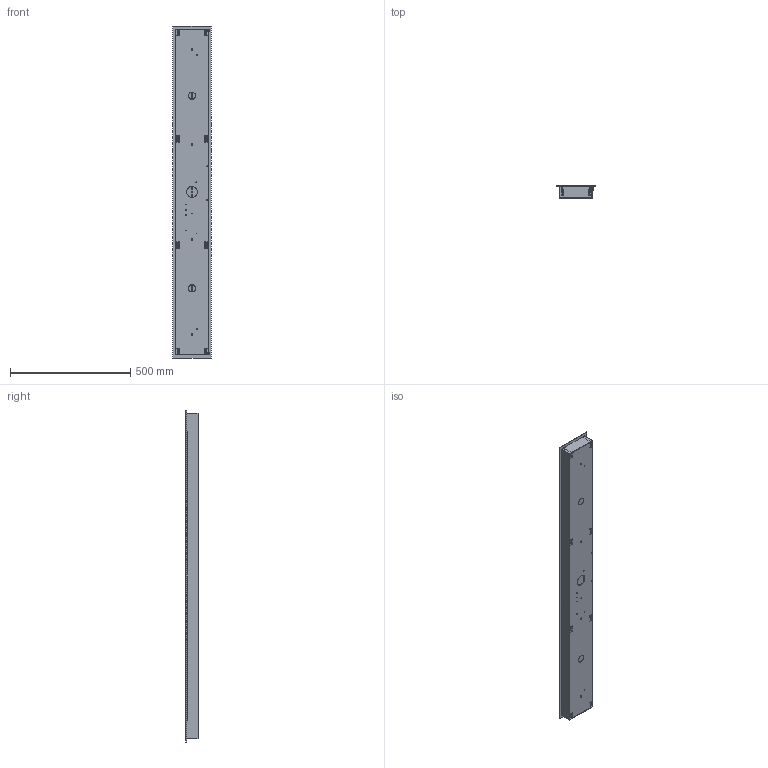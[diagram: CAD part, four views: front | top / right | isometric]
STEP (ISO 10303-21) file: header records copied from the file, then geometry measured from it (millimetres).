
FILE_DESCRIPTION(/* description */ (''),/* implementation_level */ '2;1');
FILE_NAME(/* name */ 'SEM.000174',/* time_stamp */ '2025-04-14T11:21:53+02:00',/* author */ (''),/* organization */ (''),/* preprocessor_version */ 'ST-DEVELOPER v16.5',/* originating_system */ 'Rhino 7.37',/* authorisation */ '');
FILE_SCHEMA (('CONFIG_CONTROL_DESIGN'));
Length unit declared in the file: millimetre
Products named in the file (1): Document
Bounding box: 160 x 50 x 1380 mm (x, y, z)
Volume: 1154138.1 mm3; surface area: 1164995.5 mm2
Topology: 16 solids, 16 shells, 542 faces, 1430 edges, 929 vertices
Faces by surface type: plane 345, cylinder 179, bspline 18
Full cylindrical faces by diameter (mm): 2.459 x4, 3.242 x6, 4 x9, 4.2 x3, 5 x2, 6 x2, 6.1 x10, 7.6 x2, 30 x2, 45 x1
Entity records: 15702 total; most frequent: CARTESIAN_POINT 5996, ORIENTED_EDGE 2856, EDGE_CURVE 1428, VERTEX_POINT 929, B_SPLINE_CURVE_WITH_KNOTS 915, EDGE_LOOP 671, ADVANCED_FACE 542, FACE_OUTER_BOUND 542
